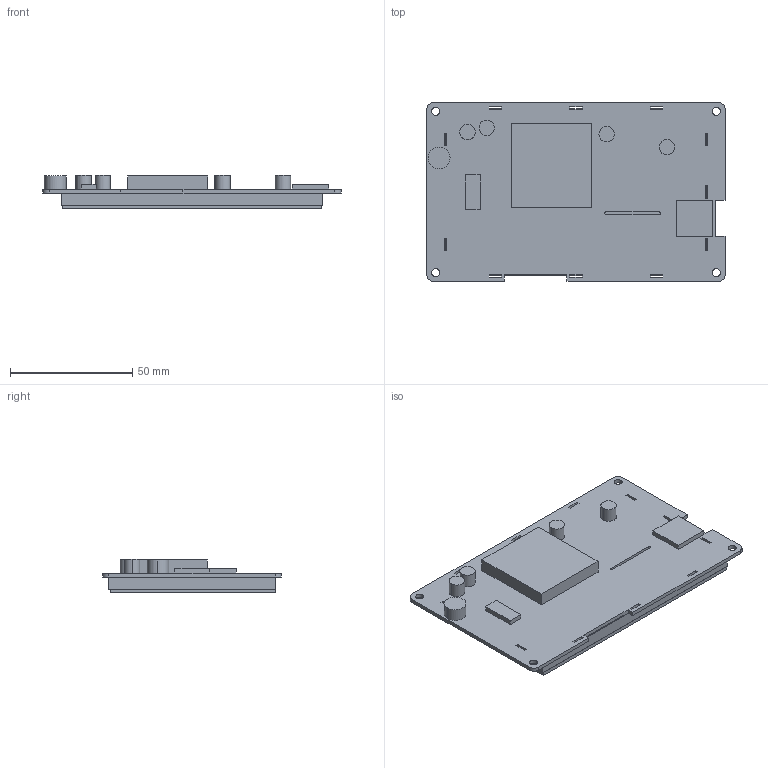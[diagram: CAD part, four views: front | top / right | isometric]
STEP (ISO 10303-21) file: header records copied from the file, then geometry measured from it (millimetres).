
FILE_DESCRIPTION((''),'2;1');
FILE_NAME('3D-DMG48270C043-03WTR','2024-07-30T',('Administrator'),(''),'PRO/ENGINEER BY PARAMETRIC TECHNOLOGY CORPORATION, 2011310','PRO/ENGINEER BY PARAMETRIC TECHNOLOGY CORPORATION, 2011310','');
FILE_SCHEMA(('CONFIG_CONTROL_DESIGN','SHAPE_APPEARANCE_LAYERS_GROUPS'));
Products named in the file (1): 3D-DMG48270C043-03WTR
Bounding box: 121.92 x 73.15 x 13.9 mm (x, y, z)
Volume: 66479.2 mm3; surface area: 33805.2 mm2
Topology: 1 solids, 2 shells, 134 faces, 9937 edges, 16685 vertices
Faces by surface type: plane 110, cylinder 24
Entity records: 84744 total; most frequent: DIRECTION 12955, CARTESIAN_POINT 10310, PRESENTATION_STYLE_ASSIGNMENT 9945, STYLED_ITEM 9945, CURVE_STYLE 9940, TRIMMED_CURVE 9567, VECTOR 7189, LINE 7189
